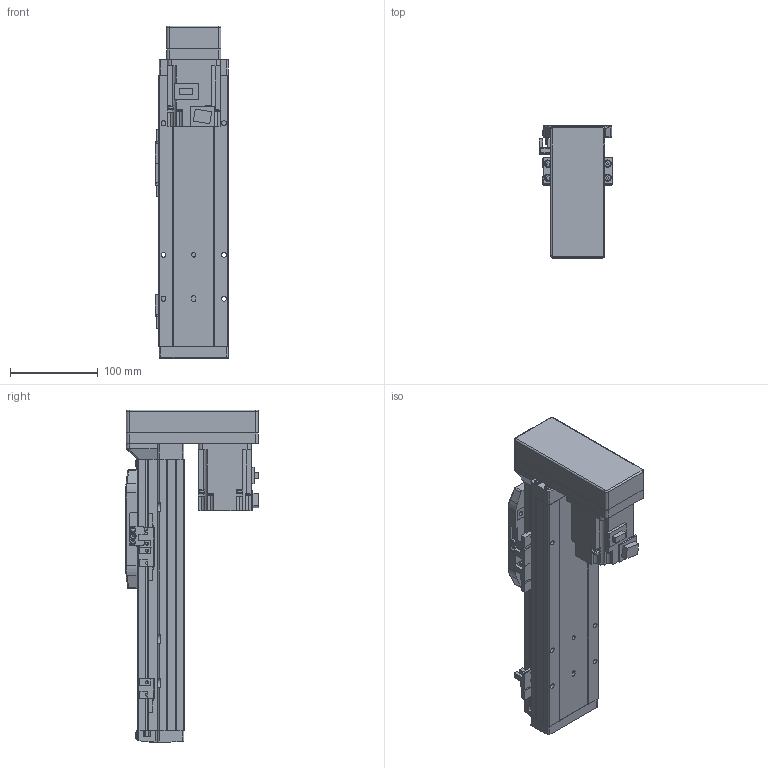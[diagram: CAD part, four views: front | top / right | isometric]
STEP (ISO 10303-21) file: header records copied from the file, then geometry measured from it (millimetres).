
FILE_DESCRIPTION (( 'STEP AP214' ), '1' );
FILE_NAME ('GSH8-150-BM-M20-1.step', '2025-01-07T06:07:43', ( '' ), ( '' ), 'SwSTEP 2.0', 'SolidWorks 2012', '' );
FILE_SCHEMA (( 'AUTOMOTIVE_DESIGN' ));
Length unit declared in the file: millimetre
Products named in the file (5): GSH8-150-BM-M20-1; GSH8-BL-008; GSH8-BL-011-150-M20; GSH8-GY-004; HG-KR23_200W_Motor
Assembly tree (4 placements, depth 2):
  GSH8-150-BM-M20-1
    GSH8-BL-011-150-M20
    GSH8-GY-004
    GSH8-BL-008
    HG-KR23_200W_Motor
Bounding box: 84 x 152.3 x 378.2 mm (x, y, z)
Volume: 1398433.5 mm3; surface area: 296750.6 mm2
Topology: 4 solids, 8 shells, 1088 faces, 2837 edges, 1822 vertices
Faces by surface type: plane 624, cylinder 368, torus 42, cone 26, bspline 24, sphere 4
Entity records: 42739 total; most frequent: CARTESIAN_POINT 9696, DIRECTION 5753, ORIENTED_EDGE 5658, EDGE_CURVE 2829, AXIS2_PLACEMENT_3D 1931, VECTOR 1891, LINE 1891, VERTEX_POINT 1818
